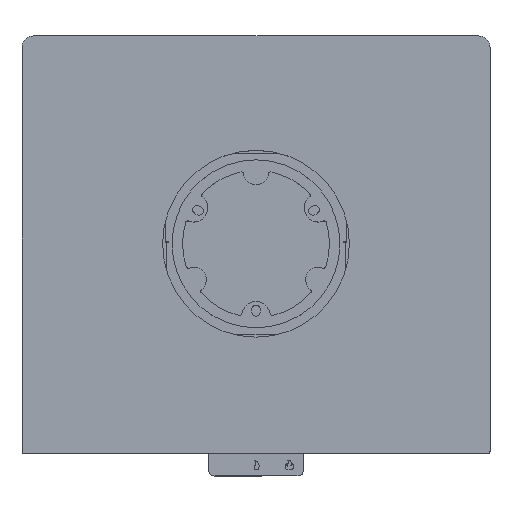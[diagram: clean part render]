
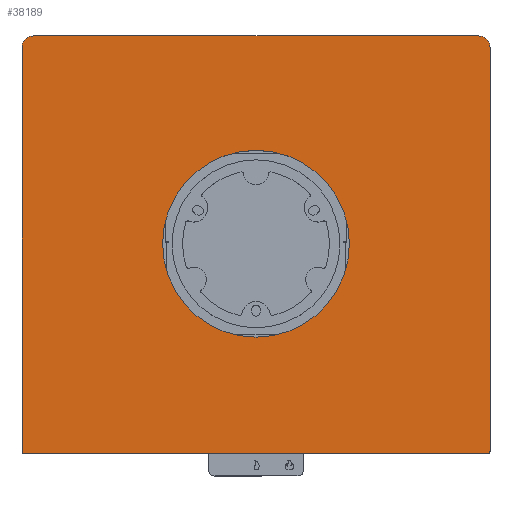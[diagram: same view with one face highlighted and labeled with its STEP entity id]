
A CAD part, top view. The second image highlights one B-rep face of the part: STEP entity #38189.
In plain terms, the highlighted planar face has unit normal (0, 0, 1).
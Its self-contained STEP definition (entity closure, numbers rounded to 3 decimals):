
#479=FACE_BOUND('',#5601,.T.);
#1542=PLANE('',#41585);
#3497=FACE_OUTER_BOUND('',#5600,.T.);
#5600=EDGE_LOOP('',(#33446,#33447,#33448,#33449,#33450,#33451,#33452,#33453));
#5601=EDGE_LOOP('',(#33454));
#9248=LINE('',#67729,#12900);
#9251=LINE('',#67735,#12903);
#9252=LINE('',#67739,#12904);
#9253=LINE('',#67743,#12905);
#12900=VECTOR('',#51911,10.);
#12903=VECTOR('',#51916,10.);
#12904=VECTOR('',#51919,10.);
#12905=VECTOR('',#51922,10.);
#14358=CIRCLE('',#41583,2.);
#14359=CIRCLE('',#41586,11.);
#14360=CIRCLE('',#41587,11.);
#14361=CIRCLE('',#41588,2.);
#14362=CIRCLE('',#41589,89.);
#17702=VERTEX_POINT('',#67722);
#17703=VERTEX_POINT('',#67724);
#17704=VERTEX_POINT('',#67728);
#17706=VERTEX_POINT('',#67734);
#17707=VERTEX_POINT('',#67736);
#17708=VERTEX_POINT('',#67738);
#17709=VERTEX_POINT('',#67740);
#17710=VERTEX_POINT('',#67742);
#17711=VERTEX_POINT('',#67745);
#22951=EDGE_CURVE('',#17702,#17703,#14358,.T.);
#22953=EDGE_CURVE('',#17703,#17704,#9248,.T.);
#22956=EDGE_CURVE('',#17706,#17702,#9251,.T.);
#22957=EDGE_CURVE('',#17707,#17706,#14359,.T.);
#22958=EDGE_CURVE('',#17708,#17707,#9252,.T.);
#22959=EDGE_CURVE('',#17709,#17708,#14360,.T.);
#22960=EDGE_CURVE('',#17710,#17709,#9253,.T.);
#22961=EDGE_CURVE('',#17704,#17710,#14361,.T.);
#22962=EDGE_CURVE('',#17711,#17711,#14362,.T.);
#33446=ORIENTED_EDGE('',*,*,#22951,.F.);
#33447=ORIENTED_EDGE('',*,*,#22956,.F.);
#33448=ORIENTED_EDGE('',*,*,#22957,.F.);
#33449=ORIENTED_EDGE('',*,*,#22958,.F.);
#33450=ORIENTED_EDGE('',*,*,#22959,.F.);
#33451=ORIENTED_EDGE('',*,*,#22960,.F.);
#33452=ORIENTED_EDGE('',*,*,#22961,.F.);
#33453=ORIENTED_EDGE('',*,*,#22953,.F.);
#33454=ORIENTED_EDGE('',*,*,#22962,.T.);
#38189=ADVANCED_FACE('',(#3497,#479),#1542,.F.);
#41583=AXIS2_PLACEMENT_3D('',#67725,#51906,#51907);
#41585=AXIS2_PLACEMENT_3D('',#67733,#51914,#51915);
#41586=AXIS2_PLACEMENT_3D('',#67737,#51917,#51918);
#41587=AXIS2_PLACEMENT_3D('',#67741,#51920,#51921);
#41588=AXIS2_PLACEMENT_3D('',#67744,#51923,#51924);
#41589=AXIS2_PLACEMENT_3D('',#67746,#51925,#51926);
#51906=DIRECTION('center_axis',(0.,0.,
-1.));
#51907=DIRECTION('ref_axis',(0.707,-0.707,0.));
#51911=DIRECTION('',(-1.,0.,0.));
#51914=DIRECTION('center_axis',(0.,0.,
-1.));
#51915=DIRECTION('ref_axis',(1.,0.,0.));
#51916=DIRECTION('',(0.,-1.,0.));
#51917=DIRECTION('center_axis',(0.,0.,
-1.));
#51918=DIRECTION('ref_axis',(0.707,0.707,0.));
#51919=DIRECTION('',(1.,0.,0.));
#51920=DIRECTION('center_axis',(0.,0.,
-1.));
#51921=DIRECTION('ref_axis',(-0.707,0.707,0.));
#51922=DIRECTION('',(0.,1.,0.));
#51923=DIRECTION('center_axis',(0.,0.,
-1.));
#51924=DIRECTION('ref_axis',(-0.707,-0.707,0.));
#51925=DIRECTION('center_axis',(0.,0.,
-1.));
#51926=DIRECTION('ref_axis',(1.,0.,0.));
#67722=CARTESIAN_POINT('',(223.,-393.,519.5));
#67724=CARTESIAN_POINT('',(221.,-395.,519.5));
#67725=CARTESIAN_POINT('Origin',(221.,-393.,519.5));
#67728=CARTESIAN_POINT('',(-221.,-395.,519.5));
#67729=CARTESIAN_POINT('',(223.,-395.,519.5));
#67733=CARTESIAN_POINT('Origin',(0.,-196.,519.5));
#67734=CARTESIAN_POINT('',(223.,-8.,519.5));
#67735=CARTESIAN_POINT('',(223.,3.,519.5));
#67736=CARTESIAN_POINT('',(212.,3.,519.5));
#67737=CARTESIAN_POINT('Origin',(212.,-8.,519.5));
#67738=CARTESIAN_POINT('',(-212.,3.,519.5));
#67739=CARTESIAN_POINT('',(-223.,3.,519.5));
#67740=CARTESIAN_POINT('',(-223.,-8.,519.5));
#67741=CARTESIAN_POINT('Origin',(-212.,-8.,519.5));
#67742=CARTESIAN_POINT('',(-223.,-393.,519.5));
#67743=CARTESIAN_POINT('',(-223.,-395.,519.5));
#67744=CARTESIAN_POINT('Origin',(-221.,-393.,519.5));
#67745=CARTESIAN_POINT('',(-89.,-195.,519.5));
#67746=CARTESIAN_POINT('Origin',(0.,-195.,519.5));
